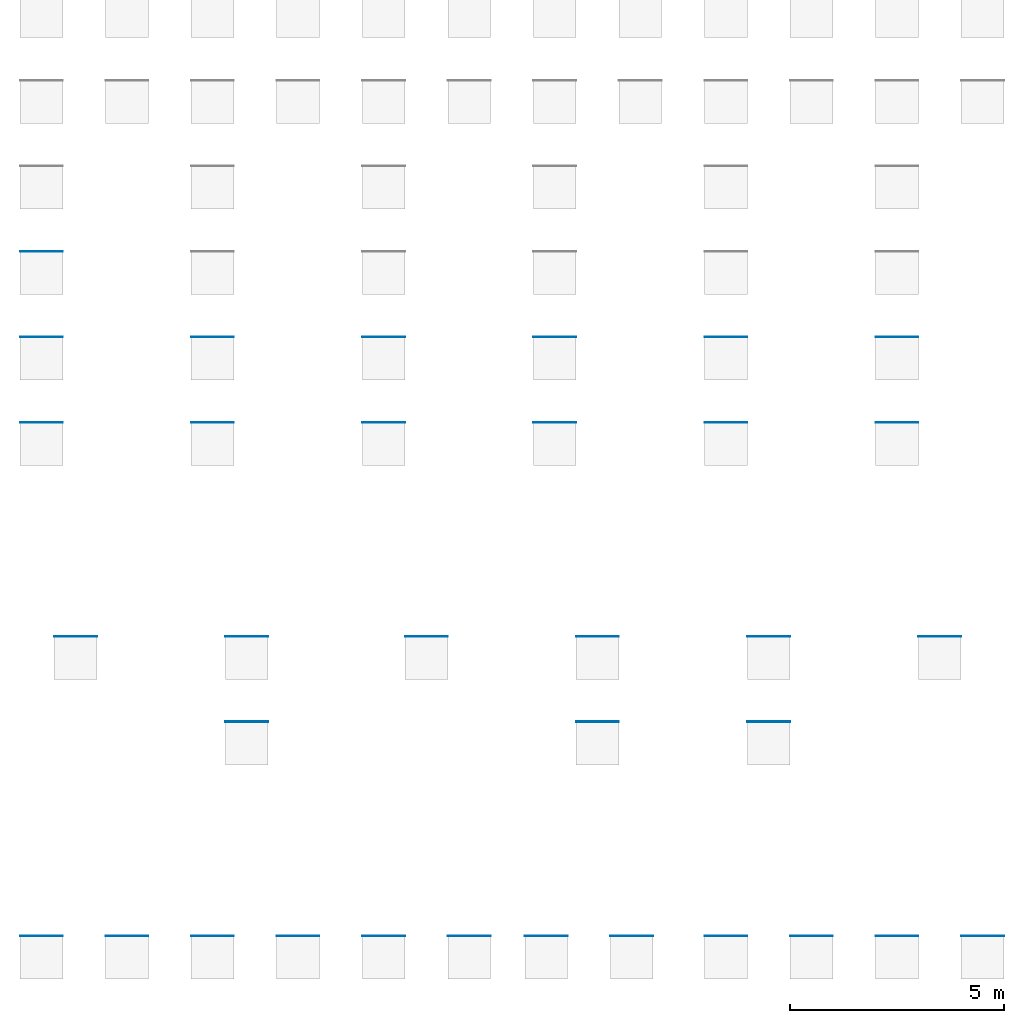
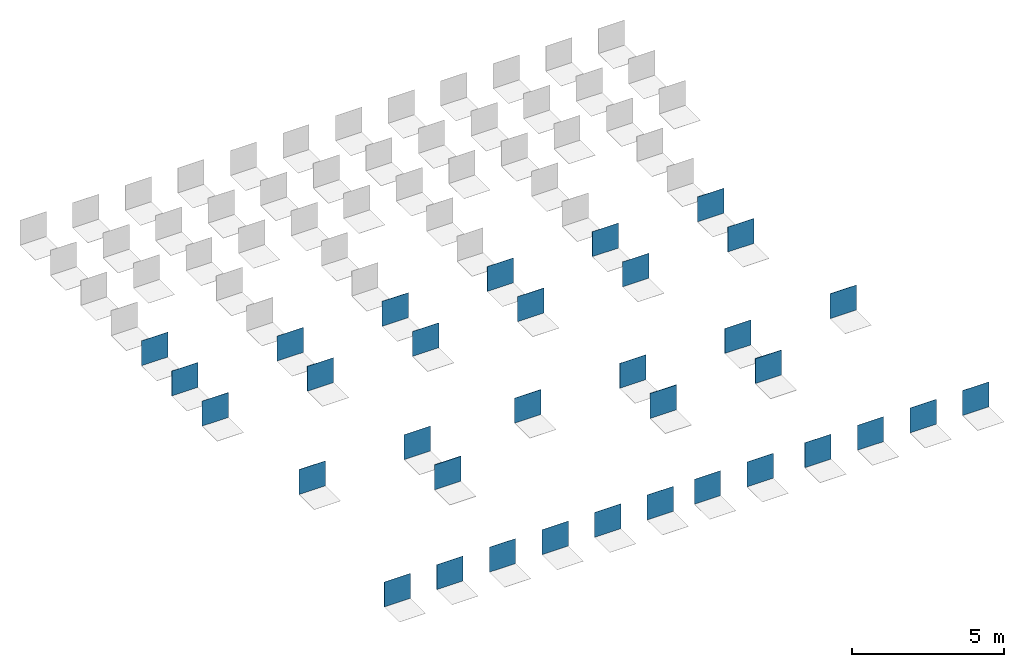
# One storey, part 1 of 6: 34 walls.
"""IFC2X3 building model written with IfcOpenShell, lengths in millimetres."""

from ifc_helpers import new_model, entity, si_unit, converted_unit, derived_unit, direction, frame, frame_2d, origin, place, context, subcontext, project, spatial, rectangle, extrude, material, layer, layer_set, layer_usage, type_object, element, save


model = new_model("IFC2X3")

# Units and contexts
model_context = context("Model", 3, precision=0.01, world=origin(), true_north=direction((6.12303176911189e-17, 1.0)))
body_context = subcontext(model_context, "Body", "Model", "MODEL_VIEW")
ifc_project = project(units=[si_unit("LENGTHUNIT", "METRE", prefix="MILLI"), si_unit("AREAUNIT", "SQUARE_METRE"), si_unit("VOLUMEUNIT", "CUBIC_METRE"), converted_unit("PLANEANGLEUNIT", "DEGREE", entity("IfcRatioMeasure", 0.0174532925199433), si_unit("PLANEANGLEUNIT", "RADIAN"), dimensions=[0, 0, 0, 0, 0, 0, 0]), si_unit("MASSUNIT", "GRAM", prefix="KILO"), derived_unit("MASSDENSITYUNIT", [(si_unit("MASSUNIT", "GRAM", prefix="KILO"), 1), (si_unit("LENGTHUNIT", "METRE"), -3)]), derived_unit("MOMENTOFINERTIAUNIT", [(si_unit("LENGTHUNIT", "METRE"), 4)]), si_unit("TIMEUNIT", "SECOND"), si_unit("FREQUENCYUNIT", "HERTZ"), si_unit("THERMODYNAMICTEMPERATUREUNIT", "DEGREE_CELSIUS"), derived_unit("THERMALTRANSMITTANCEUNIT", [(si_unit("MASSUNIT", "GRAM", prefix="KILO"), 1), (si_unit("THERMODYNAMICTEMPERATUREUNIT", "KELVIN"), -1), (si_unit("TIMEUNIT", "SECOND"), -3)]), derived_unit("VOLUMETRICFLOWRATEUNIT", [(si_unit("LENGTHUNIT", "METRE"), 3), (si_unit("TIMEUNIT", "SECOND"), -1)]), si_unit("ELECTRICCURRENTUNIT", "AMPERE"), si_unit("ELECTRICVOLTAGEUNIT", "VOLT"), si_unit("POWERUNIT", "WATT"), si_unit("FORCEUNIT", "NEWTON", prefix="KILO"), si_unit("ILLUMINANCEUNIT", "LUX"), si_unit("LUMINOUSFLUXUNIT", "LUMEN"), si_unit("LUMINOUSINTENSITYUNIT", "CANDELA"), derived_unit("USERDEFINED", [(si_unit("MASSUNIT", "GRAM", prefix="KILO"), -1), (si_unit("LENGTHUNIT", "METRE"), -2), (si_unit("TIMEUNIT", "SECOND"), 3), (si_unit("LUMINOUSFLUXUNIT", "LUMEN"), 1)]), derived_unit("LINEARVELOCITYUNIT", [(si_unit("LENGTHUNIT", "METRE"), 1), (si_unit("TIMEUNIT", "SECOND"), -1)]), si_unit("PRESSUREUNIT", "PASCAL"), derived_unit("USERDEFINED", [(si_unit("LENGTHUNIT", "METRE"), -2), (si_unit("MASSUNIT", "GRAM", prefix="KILO"), 1), (si_unit("TIMEUNIT", "SECOND"), -2)]), derived_unit("LINEARFORCEUNIT", [(si_unit("MASSUNIT", "GRAM", prefix="KILO"), 1), (si_unit("LENGTHUNIT", "METRE"), 1), (si_unit("TIMEUNIT", "SECOND"), -2), (si_unit("LENGTHUNIT", "METRE"), -1)]), derived_unit("PLANARFORCEUNIT", [(si_unit("MASSUNIT", "GRAM", prefix="KILO"), 1), (si_unit("LENGTHUNIT", "METRE"), 1), (si_unit("TIMEUNIT", "SECOND"), -2), (si_unit("LENGTHUNIT", "METRE"), -2)])], contexts=[model_context])

# Site, building, storey
site_placement = place(None, origin())
site = spatial("IfcSite", under=ifc_project, at=site_placement, Name="Default", CompositionType="ELEMENT")
building_placement = place(site_placement, origin())
building = spatial("IfcBuilding", under=site, at=building_placement, CompositionType="ELEMENT")
storey_placement = place(building_placement, origin())
storey = spatial("IfcBuildingStorey", under=building, at=storey_placement, Name="Level 1", CompositionType="ELEMENT", Elevation=0.0)

# Walls
ifc_material_1 = material(Name="REVIGRÉS-URBAN-BASE-60X60-RECT-ANTRACITE")
ifc_layer_1 = layer(ifc_material_1, 10.5)
ifc_layer_set_1 = layer_set([ifc_layer_1], Name="Basic Wall:REVIGRÉS-URBAN-BASE-59,2X59,2-RECT-ANTRACITE")
ifc_layer_usage_1 = layer_usage(ifc_layer_set_1, "AXIS2", "POSITIVE", -5.25)
wall_type_1 = type_object("IfcWallType", Name="Basic Wall:REVIGRÉS-URBAN-BASE-59,2X59,2-RECT-ANTRACITE", PredefinedType="STANDARD", material=ifc_layer_set_1)
wall_1_placement = place(storey_placement, frame((2778.64271399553, -9186.67420263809, 0.0)))
element("IfcWallStandardCase", 1, at=wall_1_placement, inside=storey, type_object=wall_type_1, material=ifc_layer_usage_1, Name="Basic Wall:REVIGRÉS-URBAN-BASE-59,2X59,2-RECT-ANTRACITE", ObjectType="Basic Wall:REVIGRÉS-URBAN-BASE-59,2X59,2-RECT-ANTRACITE", context=body_context, shape_type="SweptSolid", body=[
    extrude(rectangle(XDim=1000.0, YDim=10.4999999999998, at=frame_2d((500.0, 0.0), x_axis=(-1.0, 0.0))), origin(), (0.0, 0.0, 1.0), 1000.0),
])
ifc_material_2 = material(Name="REVIGRÉS-URBAN-BASE-60X120-RECT-ANTRACITE")
ifc_layer_2 = layer(ifc_material_2, 9.8)
ifc_layer_set_2 = layer_set([ifc_layer_2], Name="Basic Wall:REVIGRÉS-URBAN-BASE-59,2X118,6-RECT-ANTRACITE")
ifc_layer_usage_2 = layer_usage(ifc_layer_set_2, "AXIS2", "POSITIVE", -4.9)
wall_type_2 = type_object("IfcWallType", Name="Basic Wall:REVIGRÉS-URBAN-BASE-59,2X118,6-RECT-ANTRACITE", PredefinedType="STANDARD", material=ifc_layer_set_2)
wall_2_placement = place(storey_placement, frame((2778.64271399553, -11187.0242026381, 0.0)))
element("IfcWallStandardCase", 2, at=wall_2_placement, inside=storey, type_object=wall_type_2, material=ifc_layer_usage_2, Name="Basic Wall:REVIGRÉS-URBAN-BASE-59,2X118,6-RECT-ANTRACITE", ObjectType="Basic Wall:REVIGRÉS-URBAN-BASE-59,2X118,6-RECT-ANTRACITE", context=body_context, shape_type="SweptSolid", body=[
    extrude(rectangle(XDim=1000.0, YDim=9.8000000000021, at=frame_2d((500.0, -5.41344746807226e-13), x_axis=(-1.0, 0.0))), origin(), (0.0, 0.0, 1.0), 1000.0),
])
ifc_material_3 = material(Name="REVIGRÉS-URBAN-BASE-60X120-RECT-BONE")
ifc_layer_3 = layer(ifc_material_3, 9.8)
ifc_layer_set_3 = layer_set([ifc_layer_3], Name="Basic Wall:REVIGRÉS-URBAN-BASE-59,2X118,6-RECT-BONE")
ifc_layer_usage_3 = layer_usage(ifc_layer_set_3, "AXIS2", "POSITIVE", -4.9)
wall_type_3 = type_object("IfcWallType", Name="Basic Wall:REVIGRÉS-URBAN-BASE-59,2X118,6-RECT-BONE", PredefinedType="STANDARD", material=ifc_layer_set_3)
wall_3_placement = place(storey_placement, frame((6778.64271399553, -11187.0242026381, 0.0)))
element("IfcWallStandardCase", 3, at=wall_3_placement, inside=storey, type_object=wall_type_3, material=ifc_layer_usage_3, Name="Basic Wall:REVIGRÉS-URBAN-BASE-59,2X118,6-RECT-BONE", ObjectType="Basic Wall:REVIGRÉS-URBAN-BASE-59,2X118,6-RECT-BONE", context=body_context, shape_type="SweptSolid", body=[
    extrude(rectangle(XDim=1000.0, YDim=9.8000000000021, at=frame_2d((500.0, -5.41344746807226e-13), x_axis=(-1.0, 0.0))), origin(), (0.0, 0.0, 1.0), 1000.0),
])
ifc_material_4 = material(Name="REVIGRÉS-URBAN-BASE-60X120-RECT-CRAFT")
ifc_layer_4 = layer(ifc_material_4, 9.8)
ifc_layer_set_4 = layer_set([ifc_layer_4], Name="Basic Wall:REVIGRÉS-URBAN-BASE-59,2X118,6-RECT-CRAFT")
ifc_layer_usage_4 = layer_usage(ifc_layer_set_4, "AXIS2", "POSITIVE", -4.9)
wall_type_4 = type_object("IfcWallType", Name="Basic Wall:REVIGRÉS-URBAN-BASE-59,2X118,6-RECT-CRAFT", PredefinedType="STANDARD", material=ifc_layer_set_4)
wall_4_placement = place(storey_placement, frame((10778.6427139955, -11187.0242026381, 0.0)))
element("IfcWallStandardCase", 4, at=wall_4_placement, inside=storey, type_object=wall_type_4, material=ifc_layer_usage_4, Name="Basic Wall:REVIGRÉS-URBAN-BASE-59,2X118,6-RECT-CRAFT", ObjectType="Basic Wall:REVIGRÉS-URBAN-BASE-59,2X118,6-RECT-CRAFT", context=body_context, shape_type="SweptSolid", body=[
    extrude(rectangle(XDim=1000.0, YDim=9.8000000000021, at=frame_2d((500.000000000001, -5.41344746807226e-13), x_axis=(-1.0, 0.0))), origin(), (0.0, 0.0, 1.0), 1000.0),
])
ifc_material_5 = material(Name="REVIGRÉS-URBAN-BASE-60X120-RECT-FOG")
ifc_layer_5 = layer(ifc_material_5, 9.8)
ifc_layer_set_5 = layer_set([ifc_layer_5], Name="Basic Wall:REVIGRÉS-URBAN-BASE-59,2X118,6-RECT-FOG")
ifc_layer_usage_5 = layer_usage(ifc_layer_set_5, "AXIS2", "POSITIVE", -4.9)
wall_type_5 = type_object("IfcWallType", Name="Basic Wall:REVIGRÉS-URBAN-BASE-59,2X118,6-RECT-FOG", PredefinedType="STANDARD", material=ifc_layer_set_5)
wall_5_placement = place(storey_placement, frame((14778.6427139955, -11187.0242026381, 0.0)))
element("IfcWallStandardCase", 5, at=wall_5_placement, inside=storey, type_object=wall_type_5, material=ifc_layer_usage_5, Name="Basic Wall:REVIGRÉS-URBAN-BASE-59,2X118,6-RECT-FOG", ObjectType="Basic Wall:REVIGRÉS-URBAN-BASE-59,2X118,6-RECT-FOG", context=body_context, shape_type="SweptSolid", body=[
    extrude(rectangle(XDim=1000.0, YDim=9.8000000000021, at=frame_2d((500.0, -5.41344746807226e-13), x_axis=(-1.0, 0.0))), origin(), (0.0, 0.0, 1.0), 1000.0),
])
ifc_material_6 = material(Name="REVIGRÉS-URBAN-BASE-60X120-RECT-GRIS")
ifc_layer_6 = layer(ifc_material_6, 9.8)
ifc_layer_set_6 = layer_set([ifc_layer_6], Name="Basic Wall:REVIGRÉS-URBAN-BASE-59,2X118,6-RECT-GRIS")
ifc_layer_usage_6 = layer_usage(ifc_layer_set_6, "AXIS2", "POSITIVE", -4.9)
wall_type_6 = type_object("IfcWallType", Name="Basic Wall:REVIGRÉS-URBAN-BASE-59,2X118,6-RECT-GRIS", PredefinedType="STANDARD", material=ifc_layer_set_6)
wall_6_placement = place(storey_placement, frame((18778.6427139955, -11187.0242026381, 0.0)))
element("IfcWallStandardCase", 6, at=wall_6_placement, inside=storey, type_object=wall_type_6, material=ifc_layer_usage_6, Name="Basic Wall:REVIGRÉS-URBAN-BASE-59,2X118,6-RECT-GRIS", ObjectType="Basic Wall:REVIGRÉS-URBAN-BASE-59,2X118,6-RECT-GRIS", context=body_context, shape_type="SweptSolid", body=[
    extrude(rectangle(XDim=1000.0, YDim=9.8000000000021, at=frame_2d((500.0, -5.41344746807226e-13), x_axis=(-1.0, 0.0))), origin(), (0.0, 0.0, 1.0), 1000.0),
])
ifc_material_7 = material(Name="REVIGRÉS-URBAN-BASE-60X120-RECT-OFFWHITE")
ifc_layer_7 = layer(ifc_material_7, 9.8)
ifc_layer_set_7 = layer_set([ifc_layer_7], Name="Basic Wall:REVIGRÉS-URBAN-BASE-59,2X118,6-RECT-OFFWHITE")
ifc_layer_usage_7 = layer_usage(ifc_layer_set_7, "AXIS2", "POSITIVE", -4.9)
wall_type_7 = type_object("IfcWallType", Name="Basic Wall:REVIGRÉS-URBAN-BASE-59,2X118,6-RECT-OFFWHITE", PredefinedType="STANDARD", material=ifc_layer_set_7)
wall_7_placement = place(storey_placement, frame((22778.6427139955, -11187.0242026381, 0.0)))
element("IfcWallStandardCase", 7, at=wall_7_placement, inside=storey, type_object=wall_type_7, material=ifc_layer_usage_7, Name="Basic Wall:REVIGRÉS-URBAN-BASE-59,2X118,6-RECT-OFFWHITE", ObjectType="Basic Wall:REVIGRÉS-URBAN-BASE-59,2X118,6-RECT-OFFWHITE", context=body_context, shape_type="SweptSolid", body=[
    extrude(rectangle(XDim=1000.0, YDim=9.8000000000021, at=frame_2d((500.000000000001, -5.41344746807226e-13), x_axis=(-1.0, 0.0))), origin(), (0.0, 0.0, 1.0), 1000.0),
])
ifc_material_8 = material(Name="REVIGRÉS-URBAN-BASE-90X90-RECT-ANTRACITE")
ifc_layer_8 = layer(ifc_material_8, 10.5)
ifc_layer_set_8 = layer_set([ifc_layer_8], Name="Basic Wall:REVIGRÉS-URBAN-BASE-88,9X88,9-RECT-ANTRACITE")
ifc_layer_usage_8 = layer_usage(ifc_layer_set_8, "AXIS2", "POSITIVE", -5.25)
wall_type_8 = type_object("IfcWallType", Name="Basic Wall:REVIGRÉS-URBAN-BASE-88,9X88,9-RECT-ANTRACITE", PredefinedType="STANDARD", material=ifc_layer_set_8)
wall_8_placement = place(storey_placement, frame((2778.64271399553, -13186.6742026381, 0.0)))
element("IfcWallStandardCase", 8, at=wall_8_placement, inside=storey, type_object=wall_type_8, material=ifc_layer_usage_8, Name="Basic Wall:REVIGRÉS-URBAN-BASE-88,9X88,9-RECT-ANTRACITE", ObjectType="Basic Wall:REVIGRÉS-URBAN-BASE-88,9X88,9-RECT-ANTRACITE", context=body_context, shape_type="SweptSolid", body=[
    extrude(rectangle(XDim=1000.0, YDim=10.5000000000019, at=frame_2d((500.0, -5.41788836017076e-13), x_axis=(-1.0, 0.0))), origin(), (0.0, 0.0, 1.0), 1000.0),
])
ifc_material_9 = material(Name="REVIGRÉS-URBAN-BASE-90X90-RECT-BONE")
ifc_layer_9 = layer(ifc_material_9, 10.5)
ifc_layer_set_9 = layer_set([ifc_layer_9], Name="Basic Wall:REVIGRÉS-URBAN-BASE-88,9X88,9-RECT-BONE")
ifc_layer_usage_9 = layer_usage(ifc_layer_set_9, "AXIS2", "POSITIVE", -5.25)
wall_type_9 = type_object("IfcWallType", Name="Basic Wall:REVIGRÉS-URBAN-BASE-88,9X88,9-RECT-BONE", PredefinedType="STANDARD", material=ifc_layer_set_9)
wall_9_placement = place(storey_placement, frame((6778.64271399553, -13186.6742026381, 0.0)))
element("IfcWallStandardCase", 9, at=wall_9_placement, inside=storey, type_object=wall_type_9, material=ifc_layer_usage_9, Name="Basic Wall:REVIGRÉS-URBAN-BASE-88,9X88,9-RECT-BONE", ObjectType="Basic Wall:REVIGRÉS-URBAN-BASE-88,9X88,9-RECT-BONE", context=body_context, shape_type="SweptSolid", body=[
    extrude(rectangle(XDim=1000.0, YDim=10.5000000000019, at=frame_2d((500.0, -5.41788836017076e-13), x_axis=(-1.0, 0.0))), origin(), (0.0, 0.0, 1.0), 1000.0),
])
ifc_material_10 = material(Name="REVIGRÉS-URBAN-BASE-90X90-RECT-CRAFT")
ifc_layer_10 = layer(ifc_material_10, 10.5)
ifc_layer_set_10 = layer_set([ifc_layer_10], Name="Basic Wall:REVIGRÉS-URBAN-BASE-88,9X88,9-RECT-CRAFT")
ifc_layer_usage_10 = layer_usage(ifc_layer_set_10, "AXIS2", "POSITIVE", -5.25)
wall_type_10 = type_object("IfcWallType", Name="Basic Wall:REVIGRÉS-URBAN-BASE-88,9X88,9-RECT-CRAFT", PredefinedType="STANDARD", material=ifc_layer_set_10)
wall_10_placement = place(storey_placement, frame((10778.6427139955, -13186.6742026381, 0.0)))
element("IfcWallStandardCase", 10, at=wall_10_placement, inside=storey, type_object=wall_type_10, material=ifc_layer_usage_10, Name="Basic Wall:REVIGRÉS-URBAN-BASE-88,9X88,9-RECT-CRAFT", ObjectType="Basic Wall:REVIGRÉS-URBAN-BASE-88,9X88,9-RECT-CRAFT", context=body_context, shape_type="SweptSolid", body=[
    extrude(rectangle(XDim=1000.0, YDim=10.5000000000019, at=frame_2d((500.000000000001, -5.41788836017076e-13), x_axis=(-1.0, 0.0))), origin(), (0.0, 0.0, 1.0), 1000.0),
])
ifc_material_11 = material(Name="REVIGRÉS-URBAN-BASE-90X90-RECT-FOG")
ifc_layer_11 = layer(ifc_material_11, 10.5)
ifc_layer_set_11 = layer_set([ifc_layer_11], Name="Basic Wall:REVIGRÉS-URBAN-BASE-88,9X88,9-RECT-FOG")
ifc_layer_usage_11 = layer_usage(ifc_layer_set_11, "AXIS2", "POSITIVE", -5.25)
wall_type_11 = type_object("IfcWallType", Name="Basic Wall:REVIGRÉS-URBAN-BASE-88,9X88,9-RECT-FOG", PredefinedType="STANDARD", material=ifc_layer_set_11)
wall_11_placement = place(storey_placement, frame((14778.6427139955, -13186.6742026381, 0.0)))
element("IfcWallStandardCase", 11, at=wall_11_placement, inside=storey, type_object=wall_type_11, material=ifc_layer_usage_11, Name="Basic Wall:REVIGRÉS-URBAN-BASE-88,9X88,9-RECT-FOG", ObjectType="Basic Wall:REVIGRÉS-URBAN-BASE-88,9X88,9-RECT-FOG", context=body_context, shape_type="SweptSolid", body=[
    extrude(rectangle(XDim=1000.0, YDim=10.5000000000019, at=frame_2d((500.0, -5.41788836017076e-13), x_axis=(-1.0, 0.0))), origin(), (0.0, 0.0, 1.0), 1000.0),
])
ifc_material_12 = material(Name="REVIGRÉS-URBAN-BASE-90X90-RECT-GRIS")
ifc_layer_12 = layer(ifc_material_12, 10.5)
ifc_layer_set_12 = layer_set([ifc_layer_12], Name="Basic Wall:REVIGRÉS-URBAN-BASE-88,9X88,9-RECT-GRIS")
ifc_layer_usage_12 = layer_usage(ifc_layer_set_12, "AXIS2", "POSITIVE", -5.25)
wall_type_12 = type_object("IfcWallType", Name="Basic Wall:REVIGRÉS-URBAN-BASE-88,9X88,9-RECT-GRIS", PredefinedType="STANDARD", material=ifc_layer_set_12)
wall_12_placement = place(storey_placement, frame((18778.6427139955, -13186.6742026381, 0.0)))
element("IfcWallStandardCase", 12, at=wall_12_placement, inside=storey, type_object=wall_type_12, material=ifc_layer_usage_12, Name="Basic Wall:REVIGRÉS-URBAN-BASE-88,9X88,9-RECT-GRIS", ObjectType="Basic Wall:REVIGRÉS-URBAN-BASE-88,9X88,9-RECT-GRIS", context=body_context, shape_type="SweptSolid", body=[
    extrude(rectangle(XDim=1000.0, YDim=10.5000000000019, at=frame_2d((500.0, -5.41788836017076e-13), x_axis=(-1.0, 0.0))), origin(), (0.0, 0.0, 1.0), 1000.0),
])
ifc_material_13 = material(Name="REVIGRÉS-URBAN-BASE-90X90-RECT-OFFWHITE")
ifc_layer_13 = layer(ifc_material_13, 10.5)
ifc_layer_set_13 = layer_set([ifc_layer_13], Name="Basic Wall:REVIGRÉS-URBAN-BASE-88,9X88,9-RECT-OFFWHITE")
ifc_layer_usage_13 = layer_usage(ifc_layer_set_13, "AXIS2", "POSITIVE", -5.25)
wall_type_13 = type_object("IfcWallType", Name="Basic Wall:REVIGRÉS-URBAN-BASE-88,9X88,9-RECT-OFFWHITE", PredefinedType="STANDARD", material=ifc_layer_set_13)
wall_13_placement = place(storey_placement, frame((22778.6427139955, -13186.6742026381, 0.0)))
element("IfcWallStandardCase", 13, at=wall_13_placement, inside=storey, type_object=wall_type_13, material=ifc_layer_usage_13, Name="Basic Wall:REVIGRÉS-URBAN-BASE-88,9X88,9-RECT-OFFWHITE", ObjectType="Basic Wall:REVIGRÉS-URBAN-BASE-88,9X88,9-RECT-OFFWHITE", context=body_context, shape_type="SweptSolid", body=[
    extrude(rectangle(XDim=1000.0, YDim=10.5000000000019, at=frame_2d((500.000000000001, -5.41788836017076e-13), x_axis=(-1.0, 0.0))), origin(), (0.0, 0.0, 1.0), 1000.0),
])
ifc_material_14 = material(Name="REVIGRÉS-URBAN-BASE-60X60-RECT-ANTISLIP ANTRACITE")
ifc_layer_14 = layer(ifc_material_14, 10.5)
ifc_layer_set_14 = layer_set([ifc_layer_14], Name="Basic Wall:REVIGRÉS-URBAN-BASE-59,2X59,2-RECT-ANTISLIP ANTRACITE")
ifc_layer_usage_14 = layer_usage(ifc_layer_set_14, "AXIS2", "POSITIVE", -5.25)
wall_type_14 = type_object("IfcWallType", Name="Basic Wall:REVIGRÉS-URBAN-BASE-59,2X59,2-RECT-ANTISLIP ANTRACITE", PredefinedType="STANDARD", material=ifc_layer_set_14)
wall_14_placement = place(storey_placement, frame((3578.64271399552, -18186.6742026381, 0.0)))
element("IfcWallStandardCase", 14, at=wall_14_placement, inside=storey, type_object=wall_type_14, material=ifc_layer_usage_14, Name="Basic Wall:REVIGRÉS-URBAN-BASE-59,2X59,2-RECT-ANTISLIP ANTRACITE", ObjectType="Basic Wall:REVIGRÉS-URBAN-BASE-59,2X59,2-RECT-ANTISLIP ANTRACITE", context=body_context, shape_type="SweptSolid", body=[
    extrude(rectangle(XDim=1000.0, YDim=10.5000000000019, at=frame_2d((500.0, -5.41788836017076e-13), x_axis=(-1.0, 0.0))), origin(), (0.0, 0.0, 1.0), 1000.0),
])
ifc_material_15 = material(Name="REVIGRÉS-URBAN-BASE-60X60-RECT-ANTISLIP BONE")
ifc_layer_15 = layer(ifc_material_15, 10.5)
ifc_layer_set_15 = layer_set([ifc_layer_15], Name="Basic Wall:REVIGRÉS-URBAN-BASE-59,2X59,2-RECT-ANTISLIP BONE")
ifc_layer_usage_15 = layer_usage(ifc_layer_set_15, "AXIS2", "POSITIVE", -5.25)
wall_type_15 = type_object("IfcWallType", Name="Basic Wall:REVIGRÉS-URBAN-BASE-59,2X59,2-RECT-ANTISLIP BONE", PredefinedType="STANDARD", material=ifc_layer_set_15)
wall_15_placement = place(storey_placement, frame((7578.39550555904, -18186.6742026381, 0.0)))
element("IfcWallStandardCase", 15, at=wall_15_placement, inside=storey, type_object=wall_type_15, material=ifc_layer_usage_15, Name="Basic Wall:REVIGRÉS-URBAN-BASE-59,2X59,2-RECT-ANTISLIP BONE", ObjectType="Basic Wall:REVIGRÉS-URBAN-BASE-59,2X59,2-RECT-ANTISLIP BONE", context=body_context, shape_type="SweptSolid", body=[
    extrude(rectangle(XDim=1000.0, YDim=10.5000000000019, at=frame_2d((500.0, -5.41788836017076e-13), x_axis=(-1.0, 0.0))), origin(), (0.0, 0.0, 1.0), 1000.0),
])
ifc_material_16 = material(Name="REVIGRÉS-URBAN-BASE-60X60-RECT-ANTISLIP CRAFT")
ifc_layer_16 = layer(ifc_material_16, 10.5)
ifc_layer_set_16 = layer_set([ifc_layer_16], Name="Basic Wall:REVIGRÉS-URBAN-BASE-59,2X59,2-RECT-ANTISLIP CRAFT")
ifc_layer_usage_16 = layer_usage(ifc_layer_set_16, "AXIS2", "POSITIVE", -5.25)
wall_type_16 = type_object("IfcWallType", Name="Basic Wall:REVIGRÉS-URBAN-BASE-59,2X59,2-RECT-ANTISLIP CRAFT", PredefinedType="STANDARD", material=ifc_layer_set_16)
wall_16_placement = place(storey_placement, frame((11778.6427139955, -18186.6742026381, 0.0)))
element("IfcWallStandardCase", 16, at=wall_16_placement, inside=storey, type_object=wall_type_16, material=ifc_layer_usage_16, Name="Basic Wall:REVIGRÉS-URBAN-BASE-59,2X59,2-RECT-ANTISLIP CRAFT", ObjectType="Basic Wall:REVIGRÉS-URBAN-BASE-59,2X59,2-RECT-ANTISLIP CRAFT", context=body_context, shape_type="SweptSolid", body=[
    extrude(rectangle(XDim=1000.0, YDim=10.5000000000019, at=frame_2d((500.000000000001, -5.41788836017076e-13), x_axis=(-1.0, 0.0))), origin(), (0.0, 0.0, 1.0), 1000.0),
])
ifc_material_17 = material(Name="REVIGRÉS-URBAN-BASE-60X60-RECT-ANTISLIP FOG")
ifc_layer_17 = layer(ifc_material_17, 10.5)
ifc_layer_set_17 = layer_set([ifc_layer_17], Name="Basic Wall:REVIGRÉS-URBAN-BASE-59,2X59,2-RECT-ANTISLIP FOG")
ifc_layer_usage_17 = layer_usage(ifc_layer_set_17, "AXIS2", "POSITIVE", -5.25)
wall_type_17 = type_object("IfcWallType", Name="Basic Wall:REVIGRÉS-URBAN-BASE-59,2X59,2-RECT-ANTISLIP FOG", PredefinedType="STANDARD", material=ifc_layer_set_17)
wall_17_placement = place(storey_placement, frame((15778.6427139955, -18186.6742026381, 0.0)))
element("IfcWallStandardCase", 17, at=wall_17_placement, inside=storey, type_object=wall_type_17, material=ifc_layer_usage_17, Name="Basic Wall:REVIGRÉS-URBAN-BASE-59,2X59,2-RECT-ANTISLIP FOG", ObjectType="Basic Wall:REVIGRÉS-URBAN-BASE-59,2X59,2-RECT-ANTISLIP FOG", context=body_context, shape_type="SweptSolid", body=[
    extrude(rectangle(XDim=1000.0, YDim=10.5000000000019, at=frame_2d((500.000000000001, -5.41788836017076e-13), x_axis=(-1.0, 0.0))), origin(), (0.0, 0.0, 1.0), 1000.0),
])
ifc_material_18 = material(Name="REVIGRÉS-URBAN-BASE-60X60-RECT-ANTISLIP GRIS")
ifc_layer_18 = layer(ifc_material_18, 10.5)
ifc_layer_set_18 = layer_set([ifc_layer_18], Name="Basic Wall:REVIGRÉS-URBAN-BASE-59,2X59,2-RECT-ANTISLIP GRIS")
ifc_layer_usage_18 = layer_usage(ifc_layer_set_18, "AXIS2", "POSITIVE", -5.25)
wall_type_18 = type_object("IfcWallType", Name="Basic Wall:REVIGRÉS-URBAN-BASE-59,2X59,2-RECT-ANTISLIP GRIS", PredefinedType="STANDARD", material=ifc_layer_set_18)
wall_18_placement = place(storey_placement, frame((19778.6427139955, -18186.6742026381, 0.0)))
element("IfcWallStandardCase", 18, at=wall_18_placement, inside=storey, type_object=wall_type_18, material=ifc_layer_usage_18, Name="Basic Wall:REVIGRÉS-URBAN-BASE-59,2X59,2-RECT-ANTISLIP GRIS", ObjectType="Basic Wall:REVIGRÉS-URBAN-BASE-59,2X59,2-RECT-ANTISLIP GRIS", context=body_context, shape_type="SweptSolid", body=[
    extrude(rectangle(XDim=1000.0, YDim=10.5000000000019, at=frame_2d((500.000000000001, -5.41788836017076e-13), x_axis=(-1.0, 0.0))), origin(), (0.0, 0.0, 1.0), 1000.0),
])
ifc_material_19 = material(Name="REVIGRÉS-URBAN-BASE-60X60-RECT-ANTISLIP OFFWHITE")
ifc_layer_19 = layer(ifc_material_19, 10.5)
ifc_layer_set_19 = layer_set([ifc_layer_19], Name="Basic Wall:REVIGRÉS-URBAN-BASE-59,2X59,2-RECT-ANTISLIP OFFWHITE")
ifc_layer_usage_19 = layer_usage(ifc_layer_set_19, "AXIS2", "POSITIVE", -5.25)
wall_type_19 = type_object("IfcWallType", Name="Basic Wall:REVIGRÉS-URBAN-BASE-59,2X59,2-RECT-ANTISLIP OFFWHITE", PredefinedType="STANDARD", material=ifc_layer_set_19)
wall_19_placement = place(storey_placement, frame((23778.6427139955, -18186.6742026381, 0.0)))
element("IfcWallStandardCase", 19, at=wall_19_placement, inside=storey, type_object=wall_type_19, material=ifc_layer_usage_19, Name="Basic Wall:REVIGRÉS-URBAN-BASE-59,2X59,2-RECT-ANTISLIP OFFWHITE", ObjectType="Basic Wall:REVIGRÉS-URBAN-BASE-59,2X59,2-RECT-ANTISLIP OFFWHITE", context=body_context, shape_type="SweptSolid", body=[
    extrude(rectangle(XDim=1000.0, YDim=10.5000000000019, at=frame_2d((500.000000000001, -5.41788836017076e-13), x_axis=(-1.0, 0.0))), origin(), (0.0, 0.0, 1.0), 1000.0),
])
ifc_material_20 = material(Name="REVIGRÉS-URBAN-BASE-45X45-RECT-HYDRAULIK ANTRACITE")
ifc_layer_20 = layer(ifc_material_20, 8.5)
ifc_layer_set_20 = layer_set([ifc_layer_20], Name="Basic Wall:REVIGRÉS-URBAN-BASE-44,35X44,35-RECT HYDRAULIK ANTRACITE")
ifc_layer_usage_20 = layer_usage(ifc_layer_set_20, "AXIS2", "POSITIVE", -4.25)
wall_type_20 = type_object("IfcWallType", Name="Basic Wall:REVIGRÉS-URBAN-BASE-44,35X44,35-RECT HYDRAULIK ANTRACITE", PredefinedType="STANDARD", material=ifc_layer_set_20)
wall_20_placement = place(storey_placement, frame((2778.64271399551, -25187.6742026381, 0.0)))
element("IfcWallStandardCase", 20, at=wall_20_placement, inside=storey, type_object=wall_type_20, material=ifc_layer_usage_20, Name="Basic Wall:REVIGRÉS-URBAN-BASE-44,35X44,35-RECT HYDRAULIK ANTRACITE", ObjectType="Basic Wall:REVIGRÉS-URBAN-BASE-44,35X44,35-RECT HYDRAULIK ANTRACITE", context=body_context, shape_type="SweptSolid", body=[
    extrude(rectangle(XDim=1000.0, YDim=8.49999999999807, at=frame_2d((500.0, -5.41344746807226e-13), x_axis=(-1.0, 0.0))), origin(), (0.0, 0.0, 1.0), 1000.0),
])
ifc_material_21 = material(Name="REVIGRÉS-URBAN-BASE-45X45-NAT-HYDRAULIK ANTRACITE")
ifc_layer_21 = layer(ifc_material_21, 8.5)
ifc_layer_set_21 = layer_set([ifc_layer_21], Name="Basic Wall:REVIGRÉS-URBAN-BASE-45X45-NAT HYDRAULIK ANTRACITE")
ifc_layer_usage_21 = layer_usage(ifc_layer_set_21, "AXIS2", "POSITIVE", -4.25)
wall_type_21 = type_object("IfcWallType", Name="Basic Wall:REVIGRÉS-URBAN-BASE-45X45-NAT HYDRAULIK ANTRACITE", PredefinedType="STANDARD", material=ifc_layer_set_21)
wall_21_placement = place(storey_placement, frame((4778.64271399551, -25187.6742026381, 0.0)))
element("IfcWallStandardCase", 21, at=wall_21_placement, inside=storey, type_object=wall_type_21, material=ifc_layer_usage_21, Name="Basic Wall:REVIGRÉS-URBAN-BASE-45X45-NAT HYDRAULIK ANTRACITE", ObjectType="Basic Wall:REVIGRÉS-URBAN-BASE-45X45-NAT HYDRAULIK ANTRACITE", context=body_context, shape_type="SweptSolid", body=[
    extrude(rectangle(XDim=1000.0, YDim=8.49999999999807, at=frame_2d((500.0, -5.41344746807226e-13), x_axis=(-1.0, 0.0))), origin(), (0.0, 0.0, 1.0), 1000.0),
])
ifc_material_22 = material(Name="REVIGRÉS-URBAN-BASE-45X45-RECT-HYDRAULIK BONE")
ifc_layer_22 = layer(ifc_material_22, 8.5)
ifc_layer_set_22 = layer_set([ifc_layer_22], Name="Basic Wall:REVIGRÉS-URBAN-BASE-44,35X44,35-RECT HYDRAULIK BONE")
ifc_layer_usage_22 = layer_usage(ifc_layer_set_22, "AXIS2", "POSITIVE", -4.25)
wall_type_22 = type_object("IfcWallType", Name="Basic Wall:REVIGRÉS-URBAN-BASE-44,35X44,35-RECT HYDRAULIK BONE", PredefinedType="STANDARD", material=ifc_layer_set_22)
wall_22_placement = place(storey_placement, frame((6778.64271399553, -25187.6742026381, 0.0)))
element("IfcWallStandardCase", 22, at=wall_22_placement, inside=storey, type_object=wall_type_22, material=ifc_layer_usage_22, Name="Basic Wall:REVIGRÉS-URBAN-BASE-44,35X44,35-RECT HYDRAULIK BONE", ObjectType="Basic Wall:REVIGRÉS-URBAN-BASE-44,35X44,35-RECT HYDRAULIK BONE", context=body_context, shape_type="SweptSolid", body=[
    extrude(rectangle(XDim=1000.0, YDim=8.49999999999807, at=frame_2d((500.0, -5.41344746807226e-13), x_axis=(-1.0, 0.0))), origin(), (0.0, 0.0, 1.0), 1000.0),
])
ifc_material_23 = material(Name="REVIGRÉS-URBAN-BASE-45X45-NAT-HYDRAULIK BONE")
ifc_layer_23 = layer(ifc_material_23, 8.5)
ifc_layer_set_23 = layer_set([ifc_layer_23], Name="Basic Wall:REVIGRÉS-URBAN-BASE-45X45-NAT HYDRAULIK BONE")
ifc_layer_usage_23 = layer_usage(ifc_layer_set_23, "AXIS2", "POSITIVE", -4.25)
wall_type_23 = type_object("IfcWallType", Name="Basic Wall:REVIGRÉS-URBAN-BASE-45X45-NAT HYDRAULIK BONE", PredefinedType="STANDARD", material=ifc_layer_set_23)
wall_23_placement = place(storey_placement, frame((8778.64271399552, -25187.6742026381, 0.0)))
element("IfcWallStandardCase", 23, at=wall_23_placement, inside=storey, type_object=wall_type_23, material=ifc_layer_usage_23, Name="Basic Wall:REVIGRÉS-URBAN-BASE-45X45-NAT HYDRAULIK BONE", ObjectType="Basic Wall:REVIGRÉS-URBAN-BASE-45X45-NAT HYDRAULIK BONE", context=body_context, shape_type="SweptSolid", body=[
    extrude(rectangle(XDim=999.999999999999, YDim=8.49999999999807, at=frame_2d((499.999999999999, -5.41344746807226e-13), x_axis=(-1.0, 0.0))), origin(), (0.0, 0.0, 1.0), 1000.0),
])
ifc_material_24 = material(Name="REVIGRÉS-URBAN-BASE-45X45-RECT-HYDRAULIK CRAFT")
ifc_layer_24 = layer(ifc_material_24, 8.5)
ifc_layer_set_24 = layer_set([ifc_layer_24], Name="Basic Wall:REVIGRÉS-URBAN-BASE-44,35X44,35-RECT HYDRAULIK CRAFT")
ifc_layer_usage_24 = layer_usage(ifc_layer_set_24, "AXIS2", "POSITIVE", -4.25)
wall_type_24 = type_object("IfcWallType", Name="Basic Wall:REVIGRÉS-URBAN-BASE-44,35X44,35-RECT HYDRAULIK CRAFT", PredefinedType="STANDARD", material=ifc_layer_set_24)
wall_24_placement = place(storey_placement, frame((10778.6427139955, -25187.6742026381, 0.0)))
element("IfcWallStandardCase", 24, at=wall_24_placement, inside=storey, type_object=wall_type_24, material=ifc_layer_usage_24, Name="Basic Wall:REVIGRÉS-URBAN-BASE-44,35X44,35-RECT HYDRAULIK CRAFT", ObjectType="Basic Wall:REVIGRÉS-URBAN-BASE-44,35X44,35-RECT HYDRAULIK CRAFT", context=body_context, shape_type="SweptSolid", body=[
    extrude(rectangle(XDim=1000.0, YDim=8.49999999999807, at=frame_2d((500.0, -5.41344746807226e-13), x_axis=(-1.0, 0.0))), origin(), (0.0, 0.0, 1.0), 1000.0),
])
ifc_material_25 = material(Name="REVIGRÉS-URBAN-BASE-45X45-NAT-HYDRAULIK CRAFT")
ifc_layer_25 = layer(ifc_material_25, 8.5)
ifc_layer_set_25 = layer_set([ifc_layer_25], Name="Basic Wall:REVIGRÉS-URBAN-BASE-45X45-NAT HYDRAULIK CRAFT")
ifc_layer_usage_25 = layer_usage(ifc_layer_set_25, "AXIS2", "POSITIVE", -4.25)
wall_type_25 = type_object("IfcWallType", Name="Basic Wall:REVIGRÉS-URBAN-BASE-45X45-NAT HYDRAULIK CRAFT", PredefinedType="STANDARD", material=ifc_layer_set_25)
wall_25_placement = place(storey_placement, frame((12778.6427139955, -25187.6742026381, 0.0)))
element("IfcWallStandardCase", 25, at=wall_25_placement, inside=storey, type_object=wall_type_25, material=ifc_layer_usage_25, Name="Basic Wall:REVIGRÉS-URBAN-BASE-45X45-NAT HYDRAULIK CRAFT", ObjectType="Basic Wall:REVIGRÉS-URBAN-BASE-45X45-NAT HYDRAULIK CRAFT", context=body_context, shape_type="SweptSolid", body=[
    extrude(rectangle(XDim=1000.0, YDim=8.49999999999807, at=frame_2d((500.000000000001, -5.41344746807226e-13), x_axis=(-1.0, 0.0))), origin(), (0.0, 0.0, 1.0), 1000.0),
])
ifc_material_26 = material(Name="REVIGRÉS-URBAN-BASE-45X45-RECT-HYDRAULIK FOG")
ifc_layer_26 = layer(ifc_material_26, 8.5)
ifc_layer_set_26 = layer_set([ifc_layer_26], Name="Basic Wall:REVIGRÉS-URBAN-BASE-44,35X44,35-RECT HYDRAULIK FOG")
ifc_layer_usage_26 = layer_usage(ifc_layer_set_26, "AXIS2", "POSITIVE", -4.25)
wall_type_26 = type_object("IfcWallType", Name="Basic Wall:REVIGRÉS-URBAN-BASE-44,35X44,35-RECT HYDRAULIK FOG", PredefinedType="STANDARD", material=ifc_layer_set_26)
wall_26_placement = place(storey_placement, frame((14578.6427139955, -25187.6742026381, 0.0)))
element("IfcWallStandardCase", 26, at=wall_26_placement, inside=storey, type_object=wall_type_26, material=ifc_layer_usage_26, Name="Basic Wall:REVIGRÉS-URBAN-BASE-44,35X44,35-RECT HYDRAULIK FOG", ObjectType="Basic Wall:REVIGRÉS-URBAN-BASE-44,35X44,35-RECT HYDRAULIK FOG", context=body_context, shape_type="SweptSolid", body=[
    extrude(rectangle(XDim=1000.0, YDim=8.49999999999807, at=frame_2d((500.000000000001, -5.41344746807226e-13), x_axis=(-1.0, 0.0))), origin(), (0.0, 0.0, 1.0), 1000.0),
])
ifc_material_27 = material(Name="REVIGRÉS-URBAN-BASE-45X45-NAT-HYDRAULIK FOG")
ifc_layer_27 = layer(ifc_material_27, 8.5)
ifc_layer_set_27 = layer_set([ifc_layer_27], Name="Basic Wall:REVIGRÉS-URBAN-BASE-45X45-NAT HYDRAULIK FOG")
ifc_layer_usage_27 = layer_usage(ifc_layer_set_27, "AXIS2", "POSITIVE", -4.25)
wall_type_27 = type_object("IfcWallType", Name="Basic Wall:REVIGRÉS-URBAN-BASE-45X45-NAT HYDRAULIK FOG", PredefinedType="STANDARD", material=ifc_layer_set_27)
wall_27_placement = place(storey_placement, frame((16578.6427139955, -25187.6742026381, 0.0)))
element("IfcWallStandardCase", 27, at=wall_27_placement, inside=storey, type_object=wall_type_27, material=ifc_layer_usage_27, Name="Basic Wall:REVIGRÉS-URBAN-BASE-45X45-NAT HYDRAULIK FOG", ObjectType="Basic Wall:REVIGRÉS-URBAN-BASE-45X45-NAT HYDRAULIK FOG", context=body_context, shape_type="SweptSolid", body=[
    extrude(rectangle(XDim=1000.0, YDim=8.49999999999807, at=frame_2d((500.000000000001, -5.41344746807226e-13), x_axis=(-1.0, 0.0))), origin(), (0.0, 0.0, 1.0), 1000.0),
])
ifc_material_28 = material(Name="REVIGRÉS-URBAN-BASE-45X45-RECT-HYDRAULIK GRIS")
ifc_layer_28 = layer(ifc_material_28, 8.5)
ifc_layer_set_28 = layer_set([ifc_layer_28], Name="Basic Wall:REVIGRÉS-URBAN-BASE-44,35X44,35-RECT HYDRAULIK GRIS")
ifc_layer_usage_28 = layer_usage(ifc_layer_set_28, "AXIS2", "POSITIVE", -4.25)
wall_type_28 = type_object("IfcWallType", Name="Basic Wall:REVIGRÉS-URBAN-BASE-44,35X44,35-RECT HYDRAULIK GRIS", PredefinedType="STANDARD", material=ifc_layer_set_28)
wall_28_placement = place(storey_placement, frame((18778.6427139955, -25187.6742026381, 0.0)))
element("IfcWallStandardCase", 28, at=wall_28_placement, inside=storey, type_object=wall_type_28, material=ifc_layer_usage_28, Name="Basic Wall:REVIGRÉS-URBAN-BASE-44,35X44,35-RECT HYDRAULIK GRIS", ObjectType="Basic Wall:REVIGRÉS-URBAN-BASE-44,35X44,35-RECT HYDRAULIK GRIS", context=body_context, shape_type="SweptSolid", body=[
    extrude(rectangle(XDim=1000.0, YDim=8.49999999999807, at=frame_2d((500.000000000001, -5.41344746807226e-13), x_axis=(-1.0, 0.0))), origin(), (0.0, 0.0, 1.0), 1000.0),
])
ifc_material_29 = material(Name="REVIGRÉS-URBAN-BASE-45X45-NAT-HYDRAULIK GRIS")
ifc_layer_29 = layer(ifc_material_29, 8.5)
ifc_layer_set_29 = layer_set([ifc_layer_29], Name="Basic Wall:REVIGRÉS-URBAN-BASE-45X45-NAT HYDRAULIK GRIS")
ifc_layer_usage_29 = layer_usage(ifc_layer_set_29, "AXIS2", "POSITIVE", -4.25)
wall_type_29 = type_object("IfcWallType", Name="Basic Wall:REVIGRÉS-URBAN-BASE-45X45-NAT HYDRAULIK GRIS", PredefinedType="STANDARD", material=ifc_layer_set_29)
wall_29_placement = place(storey_placement, frame((20778.6427139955, -25187.6742026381, 0.0)))
element("IfcWallStandardCase", 29, at=wall_29_placement, inside=storey, type_object=wall_type_29, material=ifc_layer_usage_29, Name="Basic Wall:REVIGRÉS-URBAN-BASE-45X45-NAT HYDRAULIK GRIS", ObjectType="Basic Wall:REVIGRÉS-URBAN-BASE-45X45-NAT HYDRAULIK GRIS", context=body_context, shape_type="SweptSolid", body=[
    extrude(rectangle(XDim=1000.0, YDim=8.49999999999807, at=frame_2d((500.000000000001, -5.41344746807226e-13), x_axis=(-1.0, 0.0))), origin(), (0.0, 0.0, 1.0), 1000.0),
])
ifc_material_30 = material(Name="REVIGRÉS-URBAN-BASE-45X45-RECT-HYDRAULIK OFFWHITE")
ifc_layer_30 = layer(ifc_material_30, 8.5)
ifc_layer_set_30 = layer_set([ifc_layer_30], Name="Basic Wall:REVIGRÉS-URBAN-BASE-44,35X44,35-RECT HYDRAULIK OFFWHITE")
ifc_layer_usage_30 = layer_usage(ifc_layer_set_30, "AXIS2", "POSITIVE", -4.25)
wall_type_30 = type_object("IfcWallType", Name="Basic Wall:REVIGRÉS-URBAN-BASE-44,35X44,35-RECT HYDRAULIK OFFWHITE", PredefinedType="STANDARD", material=ifc_layer_set_30)
wall_30_placement = place(storey_placement, frame((22778.6427139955, -25187.6742026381, 0.0)))
element("IfcWallStandardCase", 30, at=wall_30_placement, inside=storey, type_object=wall_type_30, material=ifc_layer_usage_30, Name="Basic Wall:REVIGRÉS-URBAN-BASE-44,35X44,35-RECT HYDRAULIK OFFWHITE", ObjectType="Basic Wall:REVIGRÉS-URBAN-BASE-44,35X44,35-RECT HYDRAULIK OFFWHITE", context=body_context, shape_type="SweptSolid", body=[
    extrude(rectangle(XDim=1000.0, YDim=8.49999999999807, at=frame_2d((500.000000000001, -5.41344746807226e-13), x_axis=(-1.0, 0.0))), origin(), (0.0, 0.0, 1.0), 1000.0),
])
ifc_material_31 = material(Name="REVIGRÉS-URBAN-BASE-45X45-NAT-HYDRAULIK OFFWHITE")
ifc_layer_31 = layer(ifc_material_31, 8.5)
ifc_layer_set_31 = layer_set([ifc_layer_31], Name="Basic Wall:REVIGRÉS-URBAN-BASE-45X45-NAT HYDRAULIK OFFWHITE")
ifc_layer_usage_31 = layer_usage(ifc_layer_set_31, "AXIS2", "POSITIVE", -4.25)
wall_type_31 = type_object("IfcWallType", Name="Basic Wall:REVIGRÉS-URBAN-BASE-45X45-NAT HYDRAULIK OFFWHITE", PredefinedType="STANDARD", material=ifc_layer_set_31)
wall_31_placement = place(storey_placement, frame((24778.6427139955, -25187.6742026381, 0.0)))
element("IfcWallStandardCase", 31, at=wall_31_placement, inside=storey, type_object=wall_type_31, material=ifc_layer_usage_31, Name="Basic Wall:REVIGRÉS-URBAN-BASE-45X45-NAT HYDRAULIK OFFWHITE", ObjectType="Basic Wall:REVIGRÉS-URBAN-BASE-45X45-NAT HYDRAULIK OFFWHITE", context=body_context, shape_type="SweptSolid", body=[
    extrude(rectangle(XDim=1000.0, YDim=8.49999999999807, at=frame_2d((500.000000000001, -5.41344746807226e-13), x_axis=(-1.0, 0.0))), origin(), (0.0, 0.0, 1.0), 1000.0),
])
ifc_material_32 = material(Name="REVIGRÉS-URBAN-BASE-60X60X2-RECT-ANTISLIP BONE")
ifc_layer_32 = layer(ifc_material_32, 20.0)
ifc_layer_set_32 = layer_set([ifc_layer_32], Name="Basic Wall:REVIGRÉS-URBAN-BASE-59,8X59,8X2-RECT-ANTISLIP BONE")
ifc_layer_usage_32 = layer_usage(ifc_layer_set_32, "AXIS2", "POSITIVE", -10.0)
wall_type_32 = type_object("IfcWallType", Name="Basic Wall:REVIGRÉS-URBAN-BASE-59,8X59,8X2-RECT-ANTISLIP BONE", PredefinedType="STANDARD", material=ifc_layer_set_32)
wall_32_placement = place(storey_placement, frame((7578.39550555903, -20181.9242026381, 0.0)))
element("IfcWallStandardCase", 32, at=wall_32_placement, inside=storey, type_object=wall_type_32, material=ifc_layer_usage_32, Name="Basic Wall:REVIGRÉS-URBAN-BASE-59,8X59,8X2-RECT-ANTISLIP BONE", ObjectType="Basic Wall:REVIGRÉS-URBAN-BASE-59,8X59,8X2-RECT-ANTISLIP BONE", context=body_context, shape_type="SweptSolid", body=[
    extrude(rectangle(XDim=1000.0, YDim=20.0000000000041, at=frame_2d((500.0, -5.41788836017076e-13), x_axis=(-1.0, 0.0))), origin(), (0.0, 0.0, 1.0), 1000.0),
])
ifc_material_33 = material(Name="REVIGRÉS-URBAN-BASE-60X60X2-RECT-ANTISLIP FOG")
ifc_layer_33 = layer(ifc_material_33, 20.0)
ifc_layer_set_33 = layer_set([ifc_layer_33], Name="Basic Wall:REVIGRÉS-URBAN-BASE-59,8X59,8X2-RECT-ANTISLIP FOG")
ifc_layer_usage_33 = layer_usage(ifc_layer_set_33, "AXIS2", "POSITIVE", -10.0)
wall_type_33 = type_object("IfcWallType", Name="Basic Wall:REVIGRÉS-URBAN-BASE-59,8X59,8X2-RECT-ANTISLIP FOG", PredefinedType="STANDARD", material=ifc_layer_set_33)
wall_33_placement = place(storey_placement, frame((15778.6427139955, -20181.9242026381, 0.0)))
element("IfcWallStandardCase", 33, at=wall_33_placement, inside=storey, type_object=wall_type_33, material=ifc_layer_usage_33, Name="Basic Wall:REVIGRÉS-URBAN-BASE-59,8X59,8X2-RECT-ANTISLIP FOG", ObjectType="Basic Wall:REVIGRÉS-URBAN-BASE-59,8X59,8X2-RECT-ANTISLIP FOG", context=body_context, shape_type="SweptSolid", body=[
    extrude(rectangle(XDim=1000.0, YDim=20.0000000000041, at=frame_2d((500.0, -5.41788836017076e-13), x_axis=(-1.0, 0.0))), origin(), (0.0, 0.0, 1.0), 1000.0),
])
ifc_material_34 = material(Name="REVIGRÉS-URBAN-BASE-60X60X2-RECT-ANTISLIP GRIS")
ifc_layer_34 = layer(ifc_material_34, 20.0)
ifc_layer_set_34 = layer_set([ifc_layer_34], Name="Basic Wall:REVIGRÉS-URBAN-BASE-59,8X59,8X2-RECT-ANTISLIP GRIS")
ifc_layer_usage_34 = layer_usage(ifc_layer_set_34, "AXIS2", "POSITIVE", -10.0)
wall_type_34 = type_object("IfcWallType", Name="Basic Wall:REVIGRÉS-URBAN-BASE-59,8X59,8X2-RECT-ANTISLIP GRIS", PredefinedType="STANDARD", material=ifc_layer_set_34)
wall_34_placement = place(storey_placement, frame((19778.6427139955, -20181.9242026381, 0.0)))
element("IfcWallStandardCase", 34, at=wall_34_placement, inside=storey, type_object=wall_type_34, material=ifc_layer_usage_34, Name="Basic Wall:REVIGRÉS-URBAN-BASE-59,8X59,8X2-RECT-ANTISLIP GRIS", ObjectType="Basic Wall:REVIGRÉS-URBAN-BASE-59,8X59,8X2-RECT-ANTISLIP GRIS", context=body_context, shape_type="SweptSolid", body=[
    extrude(rectangle(XDim=999.999999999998, YDim=20.0000000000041, at=frame_2d((499.999999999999, -5.41788836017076e-13), x_axis=(-1.0, 0.0))), origin(), (0.0, 0.0, 1.0), 1000.0),
])

save(model, "model.ifc")
